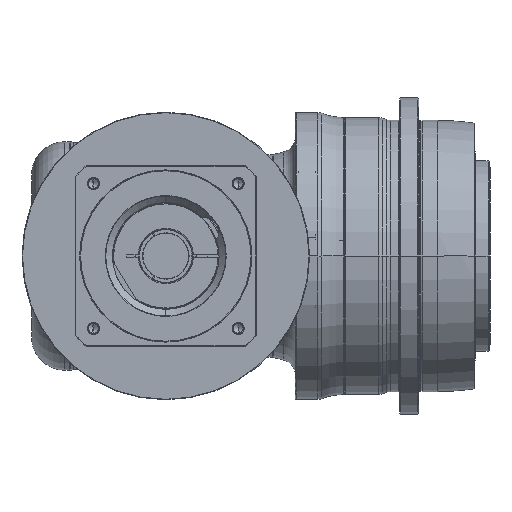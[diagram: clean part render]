
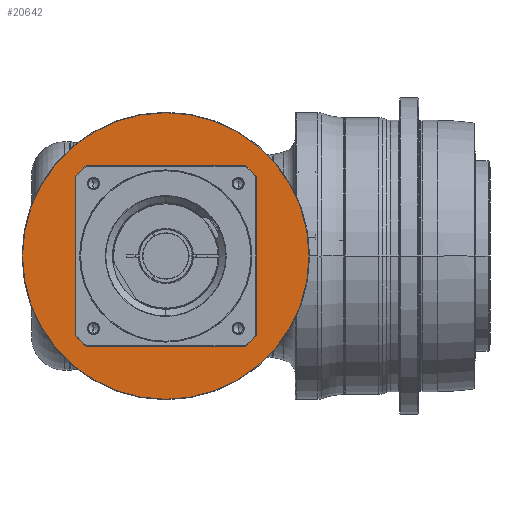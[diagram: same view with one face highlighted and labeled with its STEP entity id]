
A CAD part, front view. The second image highlights one B-rep face of the part: STEP entity #20642.
In plain terms, the highlighted planar face has unit normal (0, -1, 0) as drawn and (1, 0, 0) by its records, which use the part's own axes.
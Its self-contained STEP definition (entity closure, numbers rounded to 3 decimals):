
#20169=CARTESIAN_POINT('',(-5.,0.,
0.));
#20170=DIRECTION('',(-1.,0.,0.));
#20171=DIRECTION('',(0.,1.,0.));
#20172=AXIS2_PLACEMENT_3D('',#20169,#20170,#20171);
#20174=CARTESIAN_POINT('',(-5.,0.,
0.));
#20175=DIRECTION('',(-1.,0.,0.));
#20176=DIRECTION('',(0.,-1.,0.));
#20177=AXIS2_PLACEMENT_3D('',#20174,#20175,#20176);
#20179=CARTESIAN_POINT('',(-5.,0.,0.));
#20180=DIRECTION('',(-1.,0.,0.));
#20181=DIRECTION('',(0.,-1.,0.));
#20182=AXIS2_PLACEMENT_3D('',#20179,#20180,#20181);
#20184=CARTESIAN_POINT('',(-5.,0.,0.));
#20185=DIRECTION('',(-1.,0.,0.));
#20186=DIRECTION('',(0.,1.,0.));
#20187=AXIS2_PLACEMENT_3D('',#20184,#20185,#20186);
#20213=CARTESIAN_POINT('',(-5.,-150.5,0.));
#20214=CARTESIAN_POINT('',(-5.,150.5,0.));
#20215=VERTEX_POINT('',#20213);
#20216=VERTEX_POINT('',#20214);
#20261=CARTESIAN_POINT('',(-5.,95.,
0.));
#20262=CARTESIAN_POINT('',(-5.,-95.,0.));
#20263=VERTEX_POINT('',#20261);
#20264=VERTEX_POINT('',#20262);
#20627=CARTESIAN_POINT('',(-5.,0.,0.));
#20628=DIRECTION('',(1.,0.,0.));
#20629=DIRECTION('',(0.,-1.,0.));
#20630=AXIS2_PLACEMENT_3D('',#20627,#20628,#20629);
#20631=PLANE('',#20630);
#20632=ORIENTED_EDGE('',*,*,#20568,.T.);
#20633=ORIENTED_EDGE('',*,*,#20583,.T.);
#20634=EDGE_LOOP('',(#20632,#20633));
#20635=FACE_OUTER_BOUND('',#20634,.F.);
#20637=ORIENTED_EDGE('',*,*,#20636,.F.);
#20639=ORIENTED_EDGE('',*,*,#20638,.F.);
#20640=EDGE_LOOP('',(#20637,#20639));
#20641=FACE_BOUND('',#20640,.F.);
#20642=ADVANCED_FACE('',(#20635,#20641),#20631,.T.);
#20173=CIRCLE('',#20172,95.);
#20178=CIRCLE('',#20177,95.);
#20183=CIRCLE('',#20182,150.5);
#20188=CIRCLE('',#20187,150.5);
#20568=EDGE_CURVE('',#20215,#20216,#20183,.T.);
#20583=EDGE_CURVE('',#20216,#20215,#20188,.T.);
#20636=EDGE_CURVE('',#20263,#20264,#20173,.T.);
#20638=EDGE_CURVE('',#20264,#20263,#20178,.T.);
